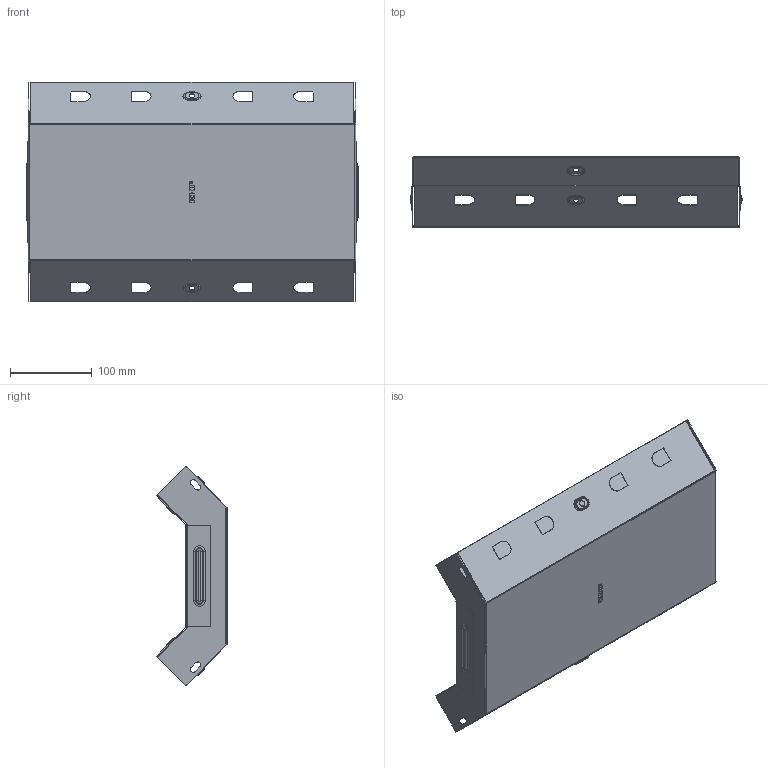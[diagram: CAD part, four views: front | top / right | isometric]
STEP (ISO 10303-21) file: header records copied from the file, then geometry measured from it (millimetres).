
FILE_DESCRIPTION (( 'STEP AP214' ), '1' );
FILE_NAME ('vi9050400_捘.STEP', '2019-06-10T09:26:29', ( '砐錪賧瘔蠈錪 Windows' ), ( '' ), 'SwSTEP 2.0', 'SolidWorks 2018', '' );
FILE_SCHEMA (( 'AUTOMOTIVE_DESIGN' ));
Length unit declared in the file: millimetre
Products named in the file (1): vi9050400_捘
Bounding box: 405.6 x 86.16 x 267.58 mm (x, y, z)
Volume: 193888.9 mm3; surface area: 488108.9 mm2
Topology: 2 solids, 2 shells, 448 faces, 1152 edges, 736 vertices
Faces by surface type: plane 246, cylinder 120, torus 64, bspline 18
Entity records: 14524 total; most frequent: CARTESIAN_POINT 3356, DIRECTION 2314, ORIENTED_EDGE 2304, EDGE_CURVE 1152, VECTOR 780, LINE 780, AXIS2_PLACEMENT_3D 767, VERTEX_POINT 736
